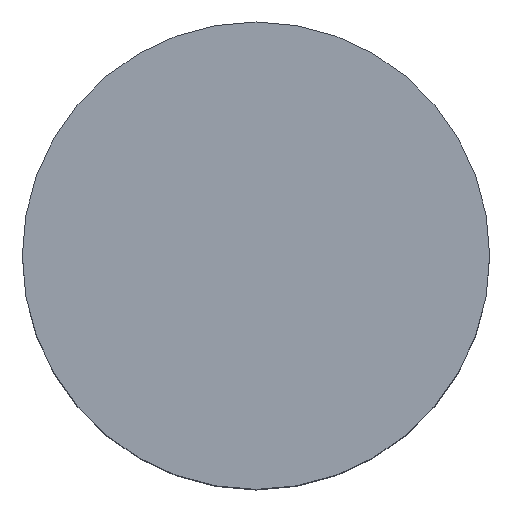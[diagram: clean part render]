
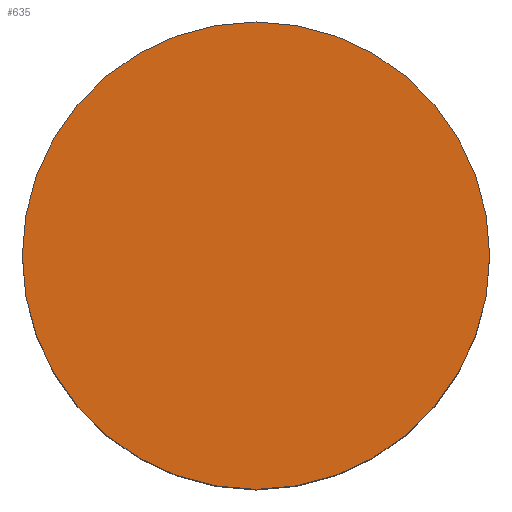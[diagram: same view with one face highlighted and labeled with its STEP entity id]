
A CAD part, top view. The second image highlights one B-rep face of the part: STEP entity #635.
In plain terms, the highlighted planar face has unit normal (0, 0, 1).
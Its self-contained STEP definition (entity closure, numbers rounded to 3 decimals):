
#32 = DIRECTION ( 'NONE',  ( 1., 0., 0. ) ) ;
#115 = DIRECTION ( 'NONE',  ( 0., 0., -1. ) ) ;
#161 = CIRCLE ( 'NONE', #474, 25. ) ;
#197 = DIRECTION ( 'NONE',  ( 1., 0., 0. ) ) ;
#298 = AXIS2_PLACEMENT_3D ( 'NONE', #362, #1046, #197 ) ;
#313 = CARTESIAN_POINT ( 'NONE',  ( -25., 0., 10. ) ) ;
#343 = CARTESIAN_POINT ( 'NONE',  ( 0., 0., 10. ) ) ;
#362 = CARTESIAN_POINT ( 'NONE',  ( 0., 0., 10. ) ) ;
#392 = ORIENTED_EDGE ( 'NONE', *, *, #867, .T. ) ;
#439 = PLANE ( 'NONE',  #537 ) ;
#451 = VERTEX_POINT ( 'NONE', #1008 ) ;
#463 = EDGE_LOOP ( 'NONE', ( #471, #392 ) ) ;
#471 = ORIENTED_EDGE ( 'NONE', *, *, #550, .T. ) ;
#474 = AXIS2_PLACEMENT_3D ( 'NONE', #343, #810, #32 ) ;
#506 = DIRECTION ( 'NONE',  ( -1., 0., 0. ) ) ;
#531 = CIRCLE ( 'NONE', #298, 25. ) ;
#537 = AXIS2_PLACEMENT_3D ( 'NONE', #916, #115, #506 ) ;
#550 = EDGE_CURVE ( 'NONE', #451, #861, #161, .T. ) ;
#635 = ADVANCED_FACE ( 'NONE', ( #667 ), #439, .F. ) ;
#667 = FACE_OUTER_BOUND ( 'NONE', #463, .T. ) ;
#810 = DIRECTION ( 'NONE',  ( 0., 0., 1. ) ) ;
#861 = VERTEX_POINT ( 'NONE', #313 ) ;
#867 = EDGE_CURVE ( 'NONE', #861, #451, #531, .T. ) ;
#916 = CARTESIAN_POINT ( 'NONE',  ( -25., 0., 10. ) ) ;
#1008 = CARTESIAN_POINT ( 'NONE',  ( 25., 0., 10. ) ) ;
#1046 = DIRECTION ( 'NONE',  ( 0., 0., 1. ) ) ;
